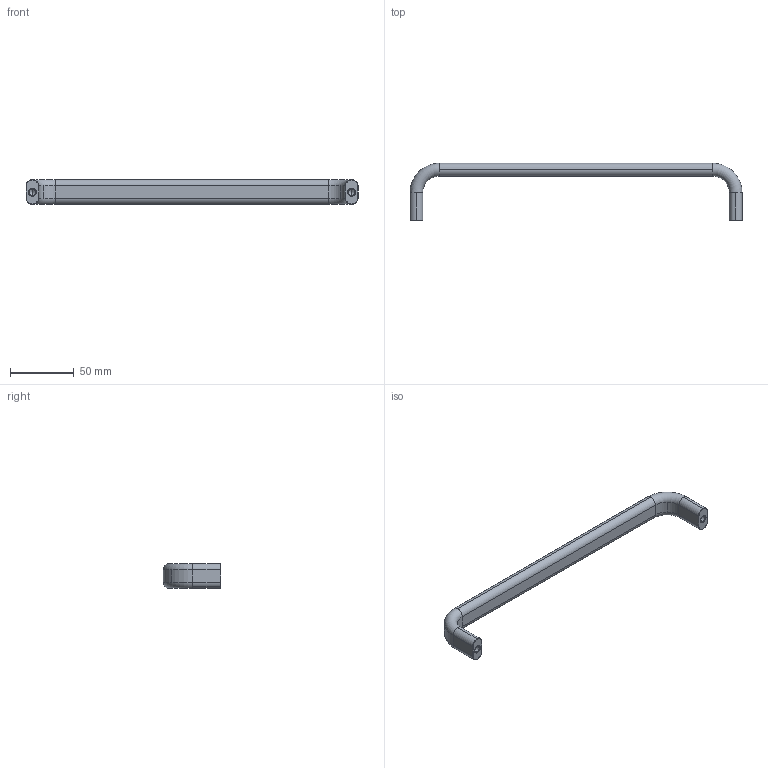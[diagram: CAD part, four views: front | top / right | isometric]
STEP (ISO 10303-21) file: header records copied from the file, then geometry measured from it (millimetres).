
FILE_DESCRIPTION((''),'2;1');
FILE_NAME('c:\wix\Knobs\7892\7892.W125.stp','2003-04-04T16:42:14',('joanc'),(''),'Autodesk Inventor (tm) 5.3','Autodesk Inventor (tm) 5.3','');
FILE_SCHEMA(('CONFIG_CONTROL_DESIGN'));
Length unit declared in the file: millimetre
Products named in the file (1): 7892.W125
Bounding box: 260 x 45 x 19.5 mm (x, y, z)
Volume: 53893.3 mm3; surface area: 16723.9 mm2
Topology: 1 solids, 1 shells, 72 faces, 166 edges, 94 vertices
Faces by surface type: cylinder 36, torus 16, cone 12, plane 8
Entity records: 2105 total; most frequent: DIRECTION 408, CARTESIAN_POINT 329, ORIENTED_EDGE 324, AXIS2_PLACEMENT_3D 173, EDGE_CURVE 162, CIRCLE 100, VERTEX_POINT 94, EDGE_LOOP 74
